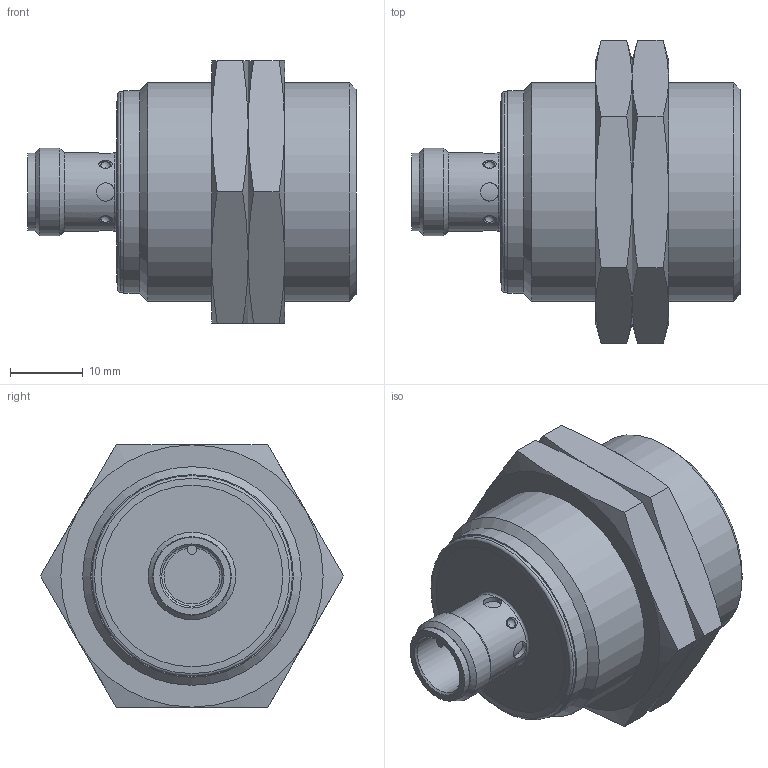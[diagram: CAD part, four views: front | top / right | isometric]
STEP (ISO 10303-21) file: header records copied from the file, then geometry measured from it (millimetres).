
FILE_DESCRIPTION( ( 'STEP AP203' ), ' ' );
FILE_NAME( 'p:/temp/worker_222/4652_1228/app_41_02016042011583398607302192d056f_000000_00_00_000000/format_2/IIS269.stp', '2016-04-20T09:58:36', ( '' ), ( '' ), ' ', 'PARTsolutions', ' ' );
FILE_SCHEMA( ( 'CONFIG_CONTROL_DESIGN' ) );
Length unit declared in the file: millimetre
Products named in the file (3): IIS269; _IIS269_part1; _IIS267_part2
Assembly tree (3 placements, depth 2):
  IIS269
    _IIS269_part1
    _IIS267_part2  x2
Bounding box: 45 x 41.57 x 36 mm (x, y, z)
Volume: 28144.2 mm3; surface area: 9037.8 mm2
Topology: 3 solids, 3 shells, 73 faces, 170 edges, 108 vertices
Faces by surface type: plane 26, cylinder 20, cone 14, torus 9, sphere 4
Full cylindrical faces by diameter (mm): 2.5 x4, 8.3 x1, 10.6 x1, 10.8 x1, 12 x1, 27.29 x1, 27.32 x1, 27.5 x1, 27.8 x1, 28.376 x2, 30 x1
Entity records: 1954 total; most frequent: CARTESIAN_POINT 743, DIRECTION 226, ORIENTED_EDGE 172, AXIS2_PLACEMENT_3D 106, EDGE_LOOP 103, EDGE_CURVE 86, FACE_OUTER_BOUND 82, VERTEX_POINT 75
